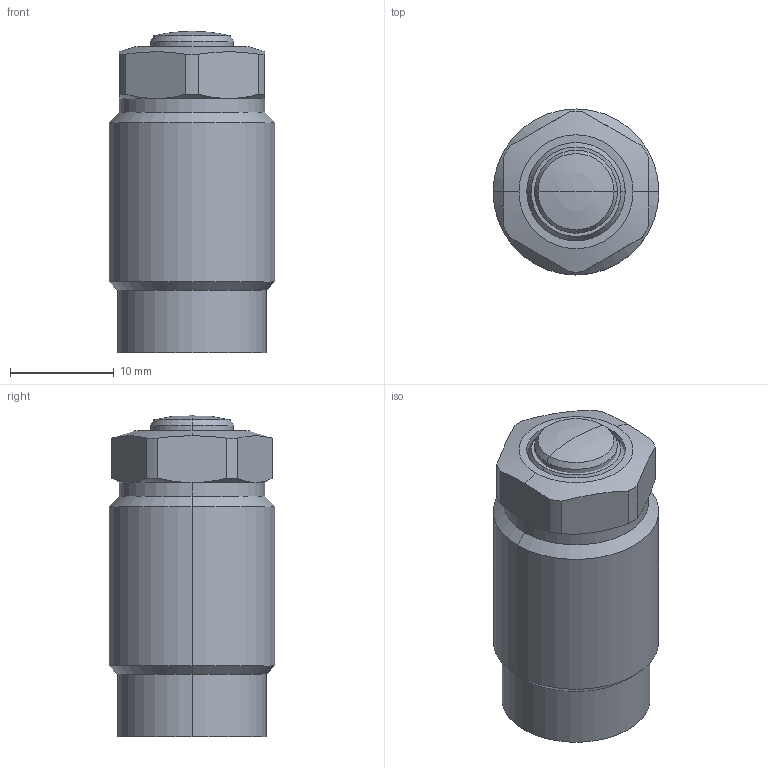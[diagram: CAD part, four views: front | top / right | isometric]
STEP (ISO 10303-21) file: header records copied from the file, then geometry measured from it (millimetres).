
FILE_DESCRIPTION((' '),'2;1');
FILE_NAME( 'TGP16-RS.x_t.stp', '2025-02-10T16:03:50', (' '), ('--- Datakit www.datakit.com---'), ' Datakit CrossCadWare V2024.1 Dec 21 2023', 'Mastercam 2025', ' ');
FILE_SCHEMA(('AUTOMOTIVE_DESIGN { 1 0 10303 214 1 1 1 1 }'));
Length unit declared in the file: millimetre
Products named in the file (1): TGP16-RS
Bounding box: 16 x 16 x 31 mm (x, y, z)
Volume: 5655.5 mm3; surface area: 2233.2 mm2
Topology: 2 solids, 2 shells, 60 faces, 135 edges, 82 vertices
Faces by surface type: cylinder 22, cone 18, plane 14, torus 4, sphere 2
Entity records: 1756 total; most frequent: CARTESIAN_POINT 380, DIRECTION 308, ORIENTED_EDGE 266, AXIS2_PLACEMENT_3D 134, EDGE_CURVE 133, VERTEX_POINT 82, CIRCLE 73, EDGE_LOOP 65
